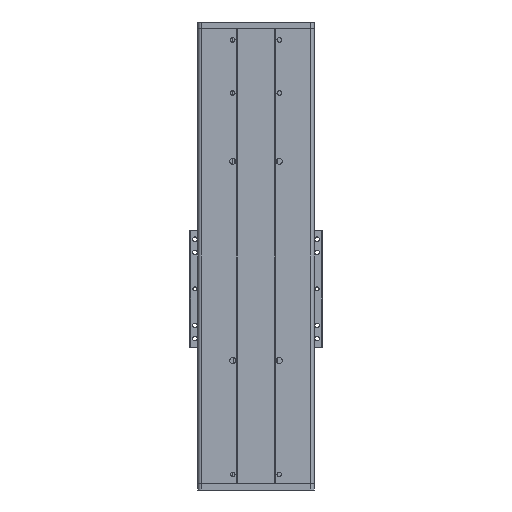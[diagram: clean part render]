
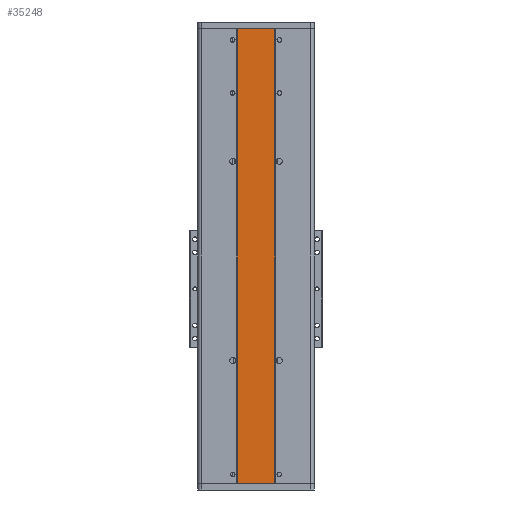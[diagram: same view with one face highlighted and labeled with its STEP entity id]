
A CAD part, front view. The second image highlights one B-rep face of the part: STEP entity #35248.
In plain terms, the highlighted planar face has unit normal (0, -1, 0).
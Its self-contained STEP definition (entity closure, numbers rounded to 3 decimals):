
#839 = VECTOR ( 'NONE', #2920, 1000. ) ;
#1250 = CARTESIAN_POINT ( 'NONE',  ( 1.27, -85.314, 685. ) ) ;
#1857 = LINE ( 'NONE', #12507, #839 ) ;
#2920 = DIRECTION ( 'NONE',  ( -1., 0., 0. ) ) ;
#3541 = VERTEX_POINT ( 'NONE', #21691 ) ;
#3846 = DIRECTION ( 'NONE',  ( 0., 0., 1. ) ) ;
#8179 = CARTESIAN_POINT ( 'NONE',  ( 58.27, -85.314, 685. ) ) ;
#8507 = LINE ( 'NONE', #15565, #17029 ) ;
#8704 = LINE ( 'NONE', #29219, #32176 ) ;
#8995 = VERTEX_POINT ( 'NONE', #18860 ) ;
#9995 = FACE_OUTER_BOUND ( 'NONE', #36913, .T. ) ;
#10091 = CARTESIAN_POINT ( 'NONE',  ( 1.27, -85.314, -1195. ) ) ;
#10225 = DIRECTION ( 'NONE',  ( 0., 0., 1. ) ) ;
#12507 = CARTESIAN_POINT ( 'NONE',  ( 0., -85.314, 0. ) ) ;
#13602 = LINE ( 'NONE', #1250, #29588 ) ;
#15565 = CARTESIAN_POINT ( 'NONE',  ( 58.27, -85.314, -1195. ) ) ;
#16139 = ORIENTED_EDGE ( 'NONE', *, *, #35012, .T. ) ;
#17029 = VECTOR ( 'NONE', #18791, 1000. ) ;
#17459 = ORIENTED_EDGE ( 'NONE', *, *, #17748, .F. ) ;
#17748 = EDGE_CURVE ( 'NONE', #3541, #8995, #1857, .T. ) ;
#18603 = EDGE_CURVE ( 'NONE', #8995, #26299, #8704, .T. ) ;
#18623 = CARTESIAN_POINT ( 'NONE',  ( 1.27, -85.314, 685. ) ) ;
#18791 = DIRECTION ( 'NONE',  ( 0., 0., 1. ) ) ;
#18860 = CARTESIAN_POINT ( 'NONE',  ( 1.27, -85.314, 0. ) ) ;
#19775 = PLANE ( 'NONE',  #32325 ) ;
#21691 = CARTESIAN_POINT ( 'NONE',  ( 58.27, -85.314, 0. ) ) ;
#24989 = ORIENTED_EDGE ( 'NONE', *, *, #33782, .T. ) ;
#26299 = VERTEX_POINT ( 'NONE', #18623 ) ;
#29219 = CARTESIAN_POINT ( 'NONE',  ( 1.27, -85.314, -1195. ) ) ;
#29386 = DIRECTION ( 'NONE',  ( 0., 1., 0. ) ) ;
#29588 = VECTOR ( 'NONE', #29950, 1000. ) ;
#29950 = DIRECTION ( 'NONE',  ( -1., 0., 0. ) ) ;
#30127 = VERTEX_POINT ( 'NONE', #8179 ) ;
#32176 = VECTOR ( 'NONE', #3846, 1000. ) ;
#32325 = AXIS2_PLACEMENT_3D ( 'NONE', #10091, #29386, #10225 ) ;
#33782 = EDGE_CURVE ( 'NONE', #30127, #26299, #13602, .T. ) ;
#35012 = EDGE_CURVE ( 'NONE', #3541, #30127, #8507, .T. ) ;
#35248 = ADVANCED_FACE ( 'NONE', ( #9995 ), #19775, .F. ) ;
#36318 = ORIENTED_EDGE ( 'NONE', *, *, #18603, .F. ) ;
#36913 = EDGE_LOOP ( 'NONE', ( #16139, #24989, #36318, #17459 ) ) ;
